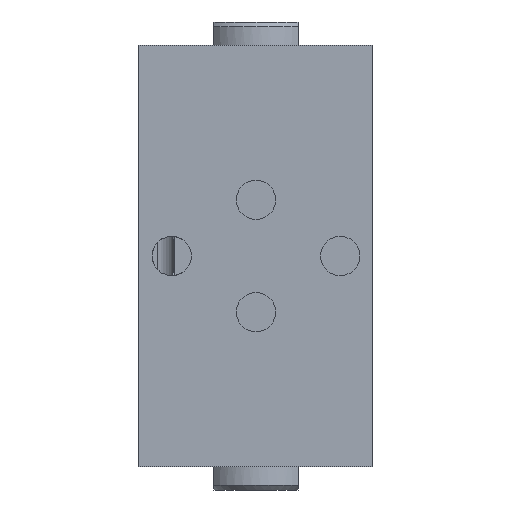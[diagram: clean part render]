
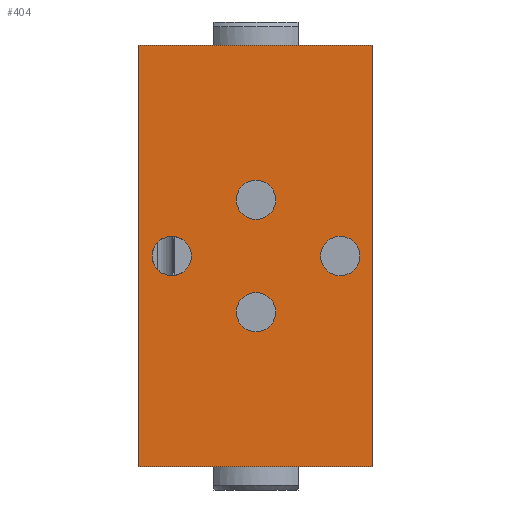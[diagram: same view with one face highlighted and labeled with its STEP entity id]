
A CAD part, front view. The second image highlights one B-rep face of the part: STEP entity #404.
In plain terms, the highlighted planar face has unit normal (0, -1, 0).
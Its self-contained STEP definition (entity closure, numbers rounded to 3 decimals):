
#404=ADVANCED_FACE('',(#1073,#1074,#1075,#1076,#1077),#1078,.T.);
#1073=FACE_OUTER_BOUND('',#2028,.T.);
#1074=FACE_BOUND('',#2029,.T.);
#1075=FACE_BOUND('',#2030,.T.);
#1076=FACE_BOUND('',#2031,.T.);
#1077=FACE_BOUND('',#2032,.T.);
#1078=PLANE('',#2033);
#2028=EDGE_LOOP('',(#3243,#3244,#3245,#3246));
#2029=EDGE_LOOP('',(#3247,#3248));
#2030=EDGE_LOOP('',(#3249,#3250));
#2031=EDGE_LOOP('',(#3251,#3252));
#2032=EDGE_LOOP('',(#3253,#3254));
#2033=AXIS2_PLACEMENT_3D('',#3255,#3256,#3257);
#3243=ORIENTED_EDGE('',*,*,#5959,.T.);
#3244=ORIENTED_EDGE('',*,*,#5960,.F.);
#3245=ORIENTED_EDGE('',*,*,#5961,.F.);
#3246=ORIENTED_EDGE('',*,*,#5962,.T.);
#3247=ORIENTED_EDGE('',*,*,#5963,.F.);
#3248=ORIENTED_EDGE('',*,*,#5964,.F.);
#3249=ORIENTED_EDGE('',*,*,#5965,.F.);
#3250=ORIENTED_EDGE('',*,*,#5966,.F.);
#3251=ORIENTED_EDGE('',*,*,#5967,.F.);
#3252=ORIENTED_EDGE('',*,*,#5968,.F.);
#3253=ORIENTED_EDGE('',*,*,#5969,.T.);
#3254=ORIENTED_EDGE('',*,*,#5970,.T.);
#3255=CARTESIAN_POINT('',(-12.5,0.0,-22.5));
#3256=DIRECTION('',(0.0,-1.0,0.0));
#3257=DIRECTION('',(0.0,0.0,-1.0));
#5959=EDGE_CURVE('',#7271,#7272,#7273,.T.);
#5960=EDGE_CURVE('',#7274,#7272,#7275,.T.);
#5961=EDGE_CURVE('',#7276,#7274,#7277,.T.);
#5962=EDGE_CURVE('',#7276,#7271,#7278,.T.);
#5963=EDGE_CURVE('',#7279,#7280,#7281,.T.);
#5964=EDGE_CURVE('',#7280,#7279,#7282,.T.);
#5965=EDGE_CURVE('',#7283,#7284,#7285,.T.);
#5966=EDGE_CURVE('',#7284,#7283,#7286,.T.);
#5967=EDGE_CURVE('',#7287,#7288,#7289,.T.);
#5968=EDGE_CURVE('',#7288,#7287,#7290,.T.);
#5969=EDGE_CURVE('',#7291,#7292,#7293,.T.);
#5970=EDGE_CURVE('',#7292,#7291,#7294,.T.);
#7271=VERTEX_POINT('',#9045);
#7272=VERTEX_POINT('',#9046);
#7273=LINE('',#9047,#9048);
#7274=VERTEX_POINT('',#9049);
#7275=LINE('',#9050,#9051);
#7276=VERTEX_POINT('',#9052);
#7277=LINE('',#9053,#9054);
#7278=LINE('',#9055,#9056);
#7279=VERTEX_POINT('',#9057);
#7280=VERTEX_POINT('',#9058);
#7281=CIRCLE('',#9059,2.1);
#7282=CIRCLE('',#9060,2.1);
#7283=VERTEX_POINT('',#9061);
#7284=VERTEX_POINT('',#9062);
#7285=CIRCLE('',#9063,2.1);
#7286=CIRCLE('',#9064,2.1);
#7287=VERTEX_POINT('',#9065);
#7288=VERTEX_POINT('',#9066);
#7289=CIRCLE('',#9067,2.1);
#7290=CIRCLE('',#9068,2.1);
#7291=VERTEX_POINT('',#9069);
#7292=VERTEX_POINT('',#9070);
#7293=CIRCLE('',#9071,2.1);
#7294=CIRCLE('',#9072,2.1);
#9045=CARTESIAN_POINT('',(12.5,0.0,-22.5));
#9046=CARTESIAN_POINT('',(12.5,0.0,22.5));
#9047=CARTESIAN_POINT('',(12.5,0.0,-22.5));
#9048=VECTOR('',#11141,1.0);
#9049=CARTESIAN_POINT('',(-12.5,0.0,22.5));
#9050=CARTESIAN_POINT('',(-12.5,0.0,22.5));
#9051=VECTOR('',#11142,1.0);
#9052=CARTESIAN_POINT('',(-12.5,0.0,-22.5));
#9053=CARTESIAN_POINT('',(-12.5,0.0,-22.5));
#9054=VECTOR('',#11143,1.0);
#9055=CARTESIAN_POINT('',(-12.5,0.0,-22.5));
#9056=VECTOR('',#11144,1.0);
#9057=CARTESIAN_POINT('',(11.1,0.0,0.0));
#9058=CARTESIAN_POINT('',(6.9,0.0,0.0));
#9059=AXIS2_PLACEMENT_3D('',#11145,#11146,#11147);
#9060=AXIS2_PLACEMENT_3D('',#11148,#11149,#11150);
#9061=CARTESIAN_POINT('',(-6.9,0.0,0.0));
#9062=CARTESIAN_POINT('',(-11.1,0.0,0.0));
#9063=AXIS2_PLACEMENT_3D('',#11151,#11152,#11153);
#9064=AXIS2_PLACEMENT_3D('',#11154,#11155,#11156);
#9065=CARTESIAN_POINT('',(2.1,0.0,-6.0));
#9066=CARTESIAN_POINT('',(-2.1,0.0,-6.0));
#9067=AXIS2_PLACEMENT_3D('',#11157,#11158,#11159);
#9068=AXIS2_PLACEMENT_3D('',#11160,#11161,#11162);
#9069=CARTESIAN_POINT('',(2.1,0.0,6.0));
#9070=CARTESIAN_POINT('',(-2.1,0.0,6.0));
#9071=AXIS2_PLACEMENT_3D('',#11163,#11164,#11165);
#9072=AXIS2_PLACEMENT_3D('',#11166,#11167,#11168);
#11141=DIRECTION('',(0.0,0.0,1.0));
#11142=DIRECTION('',(1.0,0.0,0.0));
#11143=DIRECTION('',(0.0,0.0,1.0));
#11144=DIRECTION('',(1.0,0.0,0.0));
#11145=CARTESIAN_POINT('',(9.0,0.0,0.0));
#11146=DIRECTION('',(0.0,-1.0,0.0));
#11147=DIRECTION('',(1.0,0.0,0.0));
#11148=CARTESIAN_POINT('',(9.0,0.0,0.0));
#11149=DIRECTION('',(0.0,-1.0,0.0));
#11150=DIRECTION('',(-1.0,0.0,0.0));
#11151=CARTESIAN_POINT('',(-9.0,0.0,0.0));
#11152=DIRECTION('',(0.0,-1.0,0.0));
#11153=DIRECTION('',(1.0,0.0,0.0));
#11154=CARTESIAN_POINT('',(-9.0,0.0,0.0));
#11155=DIRECTION('',(0.0,-1.0,0.0));
#11156=DIRECTION('',(-1.0,0.0,0.0));
#11157=CARTESIAN_POINT('',(0.0,0.0,-6.0));
#11158=DIRECTION('',(0.0,-1.0,0.0));
#11159=DIRECTION('',(1.0,0.0,0.0));
#11160=CARTESIAN_POINT('',(0.0,0.0,-6.0));
#11161=DIRECTION('',(0.0,-1.0,0.0));
#11162=DIRECTION('',(-1.0,0.0,0.0));
#11163=CARTESIAN_POINT('',(0.0,0.0,6.0));
#11164=DIRECTION('',(-0.0,1.0,0.0));
#11165=DIRECTION('',(1.0,0.0,0.0));
#11166=CARTESIAN_POINT('',(0.0,0.0,6.0));
#11167=DIRECTION('',(0.0,1.0,0.0));
#11168=DIRECTION('',(-1.0,0.0,0.0));
